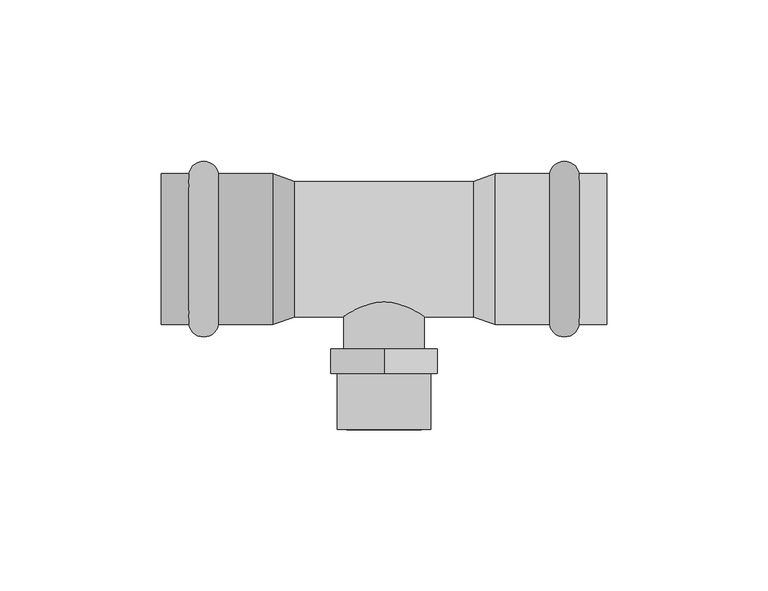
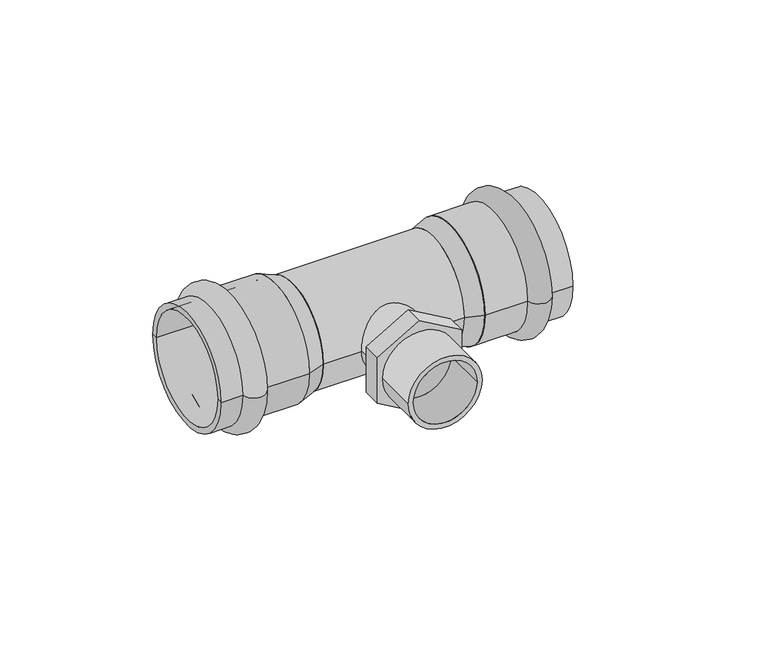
"""IFC4 building model written with IfcOpenShell, lengths in millimetres: pipe fitting geometry, VALTEC_VTi.933.I_Тройник с переходом на наружную  резьбу нержавеющая сталь : VTi.933.I."""

from ifc_helpers import new_model, si_unit, point, frame, origin, origin_2d, place, context, project, spatial, polyline, circle_curve, ellipse_curve, trimmed, segment, composite_curve, outline, extrude, source, transform, mapped, element, save
from ifc_brep_helpers import plane_surface, cylinder_surface, revolved_surface, advanced_brep


def pipe_fitting_96b725f9(model_context):
    return source(origin(), model_context, "Body", "SolidModel", [
        advanced_brep(
        [(60.4464272, 23.35, 0.0), (60.4464272, -23.35, 0.0), (51.3535728, -23.35, 0.0), (51.3535728, 23.35, 0.0), (69.0, 23.35, 0.0), (69.0, -23.35, 0.0), (69.0, 21.0, 0.0), (69.0, -21.0, 0.0), (34.5, 21.0, 0.0), (34.5, -21.0, 0.0), (34.5, 23.35, 0.0), (34.5, -23.35, 0.0)],
        [
            (0, 1, circle_curve(frame((60.4464272, 0.0, 0.0), z_axis=(-1.0, 0.0, 0.0), x_axis=(0.0, -1.0, 0.0)), 23.35)),
            (1, 2, circle_curve(frame((55.9, -22.65, 0.0), z_axis=(0.0, 0.0, -1.0), x_axis=(-1.0, 0.0, 0.0)), 4.6)),
            (2, 3, circle_curve(frame((51.3535728, 0.0, 0.0), z_axis=(1.0, 0.0, 0.0), x_axis=(0.0, -1.0, 0.0)), 23.35)),
            (3, 0, circle_curve(frame((55.9, 22.65, 0.0), z_axis=(0.0, 0.0, -1.0), x_axis=(-1.0, 0.0, 0.0)), 4.6)),
            (1, 0, circle_curve(frame((60.4464272, 0.0, 0.0), z_axis=(-1.0, 0.0, 0.0), x_axis=(0.0, -1.0, 0.0)), 23.35)),
            (3, 2, circle_curve(frame((51.3535728, 0.0, 0.0), z_axis=(1.0, 0.0, 0.0), x_axis=(0.0, -1.0, 0.0)), 23.35)),
            (4, 5, circle_curve(frame((69.0, 0.0, 0.0), z_axis=(-1.0, 0.0, 0.0), x_axis=(0.0, -1.0, 0.0)), 23.35)),
            (5, 1),
            (0, 4),
            (5, 4, circle_curve(frame((69.0, 0.0, 0.0), z_axis=(-1.0, 0.0, 0.0), x_axis=(0.0, -1.0, 0.0)), 23.35)),
            (6, 7, circle_curve(frame((69.0, 0.0, 0.0), z_axis=(-1.0, 0.0, 0.0), x_axis=(0.0, -1.0, 0.0)), 21.0)),
            (7, 5),
            (4, 6),
            (7, 6, circle_curve(frame((69.0, 0.0, 0.0), z_axis=(-1.0, 0.0, 0.0), x_axis=(0.0, -1.0, 0.0)), 21.0)),
            (8, 9, circle_curve(frame((34.5, 0.0, 0.0), z_axis=(-1.0, 0.0, 0.0), x_axis=(0.0, -1.0, 0.0)), 21.0)),
            (9, 7),
            (6, 8),
            (9, 8, circle_curve(frame((34.5, 0.0, 0.0), z_axis=(-1.0, 0.0, 0.0), x_axis=(0.0, -1.0, 0.0)), 21.0)),
            (10, 11, circle_curve(frame((34.5, 0.0, 0.0), z_axis=(-1.0, 0.0, 0.0), x_axis=(0.0, -1.0, 0.0)), 23.35)),
            (11, 9),
            (8, 10),
            (11, 10, circle_curve(frame((34.5, 0.0, 0.0), z_axis=(-1.0, 0.0, 0.0), x_axis=(0.0, -1.0, 0.0)), 23.35)),
            (2, 11),
            (10, 3),
        ],
        [
            revolved_surface(trimmed(ellipse_curve(frame((55.9, -22.65, 0.0), z_axis=(0.0, 0.0, 1.0), x_axis=(-1.0, 0.0, 0.0)), 4.6, 4.6), [point((51.3535728, -23.35, 0.0))], [point((60.4464272, -23.35, 0.0))], True, "CARTESIAN"), (72.5364426, 0.0, 0.0), (1.0, 0.0, 0.0)),
            cylinder_surface(frame((72.5364426, 0.0, 0.0), z_axis=(1.0, 0.0, 0.0), x_axis=(0.0, -1.0, 0.0)), 23.35),
            plane_surface(frame((69.0, 0.0, 0.0), z_axis=(1.0, 0.0, 0.0), x_axis=(0.0, -1.0, 0.0))),
            revolved_surface(polyline([(69.0, -21.0, 0.0), (34.5, -21.0, 0.0)]), (72.5364426, 0.0, 0.0), (1.0, 0.0, 0.0)),
            plane_surface(frame((34.5, 0.0, 0.0), z_axis=(-1.0, 0.0, 0.0), x_axis=(0.0, -1.0, 0.0))),
        ],
        [
            (0, [[1, 2, 3, 4]]),
            (0, [[5, -4, 6, -2]]),
            (1, [[7, 8, -1, 9]]),
            (1, [[10, -9, -5, -8]]),
            (2, [[11, 12, -7, 13]]),
            (2, [[14, -13, -10, -12]]),
            (3, [[15, 16, -11, 17]]),
            (3, [[18, -17, -14, -16]]),
            (4, [[19, 20, -15, 21]]),
            (4, [[22, -21, -18, -20]]),
            (1, [[-3, 23, -19, 24]]),
            (1, [[-6, -24, -22, -23]]),
        ],
    ),
        advanced_brep(
        [(-60.4464272, -23.35, 0.0), (-60.4464272, 23.35, 0.0), (-51.3535728, 23.35, 0.0), (-51.3535728, -23.35, 0.0), (-69.0, -23.35, 0.0), (-69.0, 23.35, 0.0), (-69.0, -21.0, 0.0), (-69.0, 21.0, 0.0), (-34.5, -21.0, 0.0), (-34.5, 21.0, 0.0), (-34.5, -23.35, 0.0), (-34.5, 23.35, 0.0)],
        [
            (0, 1, circle_curve(frame((-60.4464272, 0.0, 0.0), z_axis=(1.0, 0.0, 0.0), x_axis=(0.0, 1.0, 0.0)), 23.35)),
            (1, 2, circle_curve(frame((-55.9, 22.65, 0.0), z_axis=(0.0, 0.0, -1.0), x_axis=(1.0, 0.0, 0.0)), 4.6)),
            (2, 3, circle_curve(frame((-51.3535728, 0.0, 0.0), z_axis=(-1.0, 0.0, 0.0), x_axis=(0.0, 1.0, 0.0)), 23.35)),
            (3, 0, circle_curve(frame((-55.9, -22.65, 0.0), z_axis=(0.0, 0.0, -1.0), x_axis=(1.0, 0.0, 0.0)), 4.6)),
            (1, 0, circle_curve(frame((-60.4464272, 0.0, 0.0), z_axis=(1.0, 0.0, 0.0), x_axis=(0.0, 1.0, 0.0)), 23.35)),
            (3, 2, circle_curve(frame((-51.3535728, 0.0, 0.0), z_axis=(-1.0, 0.0, 0.0), x_axis=(0.0, 1.0, 0.0)), 23.35)),
            (4, 5, circle_curve(frame((-69.0, 0.0, 0.0), z_axis=(1.0, 0.0, 0.0), x_axis=(0.0, 1.0, 0.0)), 23.35)),
            (5, 1),
            (0, 4),
            (5, 4, circle_curve(frame((-69.0, 0.0, 0.0), z_axis=(1.0, 0.0, 0.0), x_axis=(0.0, 1.0, 0.0)), 23.35)),
            (6, 7, circle_curve(frame((-69.0, 0.0, 0.0), z_axis=(1.0, 0.0, 0.0), x_axis=(0.0, 1.0, 0.0)), 21.0)),
            (7, 5),
            (4, 6),
            (7, 6, circle_curve(frame((-69.0, 0.0, 0.0), z_axis=(1.0, 0.0, 0.0), x_axis=(0.0, 1.0, 0.0)), 21.0)),
            (8, 9, circle_curve(frame((-34.5, 0.0, 0.0), z_axis=(1.0, 0.0, 0.0), x_axis=(0.0, 1.0, 0.0)), 21.0)),
            (9, 7),
            (6, 8),
            (9, 8, circle_curve(frame((-34.5, 0.0, 0.0), z_axis=(1.0, 0.0, 0.0), x_axis=(0.0, 1.0, 0.0)), 21.0)),
            (10, 11, circle_curve(frame((-34.5, 0.0, 0.0), z_axis=(1.0, 0.0, 0.0), x_axis=(0.0, 1.0, 0.0)), 23.35)),
            (11, 9),
            (8, 10),
            (11, 10, circle_curve(frame((-34.5, 0.0, 0.0), z_axis=(1.0, 0.0, 0.0), x_axis=(0.0, 1.0, 0.0)), 23.35)),
            (2, 11),
            (10, 3),
        ],
        [
            revolved_surface(trimmed(ellipse_curve(frame((-55.9, 22.65, 0.0), z_axis=(0.0, 0.0, 1.0), x_axis=(1.0, 0.0, 0.0)), 4.6, 4.6), [point((-51.3535728, 23.35, 0.0))], [point((-60.4464272, 23.35, 0.0))], True, "CARTESIAN"), (-72.5364426, 0.0, 0.0), (-1.0, 0.0, 0.0)),
            cylinder_surface(frame((-72.5364426, 0.0, 0.0), z_axis=(-1.0, 0.0, 0.0), x_axis=(0.0, 1.0, 0.0)), 23.35),
            plane_surface(frame((-69.0, 0.0, 0.0), z_axis=(-1.0, 0.0, 0.0), x_axis=(0.0, 1.0, 0.0))),
            revolved_surface(polyline([(-69.0, 21.0, 0.0), (-34.5, 21.0, 0.0)]), (-72.5364426, 0.0, 0.0), (-1.0, 0.0, 0.0)),
            plane_surface(frame((-34.5, 0.0, 0.0), z_axis=(1.0, 0.0, 0.0), x_axis=(0.0, 1.0, 0.0))),
        ],
        [
            (0, [[1, 2, 3, 4]]),
            (0, [[5, -4, 6, -2]]),
            (1, [[7, 8, -1, 9]]),
            (1, [[10, -9, -5, -8]]),
            (2, [[11, 12, -7, 13]]),
            (2, [[14, -13, -10, -12]]),
            (3, [[15, 16, -11, 17]]),
            (3, [[18, -17, -14, -16]]),
            (4, [[19, 20, -15, 21]]),
            (4, [[22, -21, -18, -20]]),
            (1, [[-3, 23, -19, 24]]),
            (1, [[-6, -24, -22, -23]]),
        ],
    ),
        extrude(outline(composite_curve([segment(trimmed(circle_curve(origin_2d(), 14.5), [point((0.0, -14.5))], [point((0.0, 14.5))], False, "CARTESIAN"), True, "CONTINUOUS"), segment(trimmed(circle_curve(origin_2d(), 14.5), [point((0.0, 14.5))], [point((0.0, -14.5))], False, "CARTESIAN"), True, "CONTINUOUS")], self_intersect=False), holes=[composite_curve([segment(trimmed(circle_curve(origin_2d(), 12.5), [point((0.0, -12.5))], [point((0.0, 12.5))], True, "CARTESIAN"), True, "CONTINUOUS"), segment(trimmed(circle_curve(origin_2d(), 12.5), [point((0.0, 12.5))], [point((0.0, -12.5))], True, "CARTESIAN"), True, "CONTINUOUS")], self_intersect=False)]), frame((0.0, -56.0, 0.0), z_axis=(0.0, 1.0, 0.0), x_axis=(0.0, 0.0, 1.0)), (0.0, 0.0, 1.0), 17.5),
        extrude(outline(polyline([(19.0525589, 0.0), (9.5262794, -16.5), (-9.5262794, -16.5), (-19.0525589, 0.0), (-9.5262794, 16.5), (9.5262794, 16.5), (19.0525589, 0.0)]), holes=[composite_curve([segment(trimmed(circle_curve(origin_2d(), 12.5), [point((0.0, -12.5))], [point((0.0, 12.5))], True, "CARTESIAN"), True, "CONTINUOUS"), segment(trimmed(circle_curve(origin_2d(), 12.5), [point((0.0, 12.5))], [point((0.0, -12.5))], True, "CARTESIAN"), True, "CONTINUOUS")], self_intersect=False)]), frame((0.0, -38.5, 0.0), z_axis=(0.0, 1.0, 0.0), x_axis=(0.0, 0.0, 1.0)), (0.0, 0.0, 1.0), 7.5),
        extrude(outline(composite_curve([segment(trimmed(circle_curve(origin_2d(), 12.5), [point((0.0, -12.5))], [point((0.0, 12.5))], False, "CARTESIAN"), True, "CONTINUOUS"), segment(trimmed(circle_curve(origin_2d(), 12.5), [point((0.0, 12.5))], [point((0.0, -12.5))], False, "CARTESIAN"), True, "CONTINUOUS")], self_intersect=False)), frame((0.0, -31.0, 0.0), z_axis=(0.0, 1.0, 0.0), x_axis=(0.0, 0.0, 1.0)), (0.0, 0.0, 1.0), 31.0),
        extrude(outline(composite_curve([segment(trimmed(circle_curve(origin_2d(), 21.0), [point((-21.0, 0.0))], [point((21.0, 0.0))], False, "CARTESIAN"), True, "CONTINUOUS"), segment(trimmed(circle_curve(origin_2d(), 21.0), [point((21.0, 0.0))], [point((-21.0, 0.0))], False, "CARTESIAN"), True, "CONTINUOUS")], self_intersect=False)), frame((-27.6, 0.0, 0.0), z_axis=(1.0, 0.0, 0.0), x_axis=(0.0, 1.0, 0.0)), (0.0, 0.0, 1.0), 55.2),
        advanced_brep(
        [(34.5, -23.35, 0.0), (34.5, 23.35, 0.0), (27.6, -21.0, 0.0), (27.6, 21.0, 0.0)],
        [
            (0, 1, circle_curve(frame((34.5, 0.0, 0.0), z_axis=(1.0, 0.0, 0.0), x_axis=(0.0, -1.0, 0.0)), 23.35)),
            (1, 0, circle_curve(frame((34.5, 0.0, 0.0), z_axis=(1.0, 0.0, 0.0), x_axis=(0.0, 1.0, 0.0)), 23.35)),
            (2, 3, circle_curve(frame((27.6, 0.0, 0.0), z_axis=(-1.0, 0.0, 0.0), x_axis=(0.0, 1.0, 0.0)), 21.0)),
            (3, 2, circle_curve(frame((27.6, 0.0, 0.0), z_axis=(-1.0, 0.0, 0.0), x_axis=(0.0, -1.0, 0.0)), 21.0)),
            (3, 1),
            (0, 2),
        ],
        [
            plane_surface(frame((34.5, 0.0, 0.0), z_axis=(1.0, 0.0, 0.0), x_axis=(0.0, 0.0, 1.0))),
            plane_surface(frame((27.6, 0.0, 0.0), z_axis=(-1.0, 0.0, 0.0), x_axis=(0.0, 0.0, 1.0))),
            revolved_surface(polyline([(27.6, 21.00000000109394, 0.0), (34.5, 23.35, 0.0)]), (-34.0595745, 0.0, 0.0), (1.0, 0.0, 0.0)),
            revolved_surface(polyline([(27.6, -21.00000000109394, 0.0), (34.5, -23.35, 0.0)]), (-34.0595745, 0.0, 0.0), (1.0, 0.0, 0.0)),
        ],
        [
            (0, [[1, 2]]),
            (1, [[3, 4]]),
            (2, [[-4, 5, -1, 6]]),
            (3, [[-3, -6, -2, -5]]),
        ],
    ),
        advanced_brep(
        [(-34.5, -23.35, 0.0), (-34.5, 23.35, 0.0), (-27.6, -21.0, 0.0), (-27.6, 21.0, 0.0)],
        [
            (0, 1, circle_curve(frame((-34.5, 0.0, 0.0), z_axis=(-1.0, 0.0, 0.0), x_axis=(0.0, -1.0, 0.0)), 23.35)),
            (1, 0, circle_curve(frame((-34.5, 0.0, 0.0), z_axis=(-1.0, 0.0, 0.0), x_axis=(0.0, 1.0, 0.0)), 23.35)),
            (2, 3, circle_curve(frame((-27.6, 0.0, 0.0), z_axis=(1.0, 0.0, 0.0), x_axis=(0.0, 1.0, 0.0)), 21.0)),
            (3, 2, circle_curve(frame((-27.6, 0.0, 0.0), z_axis=(1.0, 0.0, 0.0), x_axis=(0.0, -1.0, 0.0)), 21.0)),
            (2, 0),
            (1, 3),
        ],
        [
            plane_surface(frame((-34.5, 0.0, 0.0), z_axis=(-1.0, 0.0, 0.0), x_axis=(0.0, 0.0, -1.0))),
            plane_surface(frame((-27.6, 0.0, 0.0), z_axis=(1.0, 0.0, 0.0), x_axis=(0.0, 0.0, -1.0))),
            revolved_surface(polyline([(-27.6, -21.00000000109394, 0.0), (-34.5, -23.35, 0.0)]), (34.0595745, 0.0, 0.0), (-1.0, 0.0, 0.0)),
            revolved_surface(polyline([(-27.6, 21.00000000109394, 0.0), (-34.5, 23.35, 0.0)]), (34.0595745, 0.0, 0.0), (-1.0, 0.0, 0.0)),
        ],
        [
            (0, [[1, 2]]),
            (1, [[3, 4]]),
            (2, [[-3, 5, -2, 6]]),
            (3, [[-4, -6, -1, -5]]),
        ],
    ),
    ])


if __name__ == "__main__":
    model = new_model("IFC4")
    model_context = context("Model", 3, world=origin())
    ifc_project = project(units=[si_unit("LENGTHUNIT", "METRE", prefix="MILLI")], contexts=[model_context])
    site = spatial("IfcSite", under=ifc_project)
    building = spatial("IfcBuilding", under=site)
    placement = place(None, origin())
    pipe_fitting_shape = pipe_fitting_96b725f9(model_context)
    element("IfcPipeFitting", 1, ObjectType="VALTEC_VTi.933.I_Тройник с переходом на наружную  резьбу нержавеющая сталь : VTi.933.I", at=placement, inside=building, context=model_context, shape_type="MappedRepresentation", body=[
        mapped(pipe_fitting_shape, transform((0.0, 0.0, 0.0), x_axis=(1.0, 0.0, 0.0), y_axis=(0.0, 1.0, 0.0), z_axis=(0.0, 0.0, 1.0))),
    ])
    save(model, "model.ifc")
